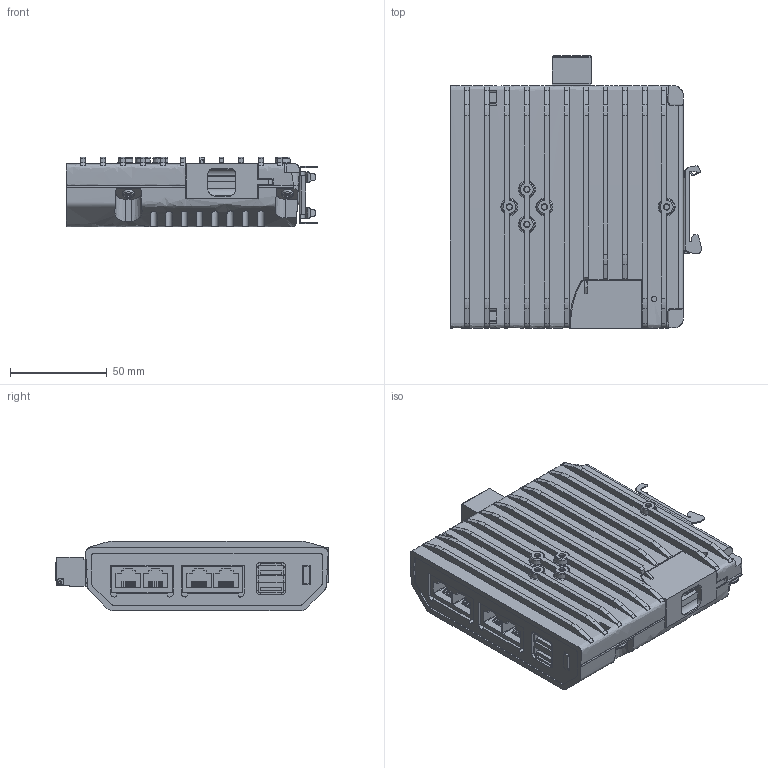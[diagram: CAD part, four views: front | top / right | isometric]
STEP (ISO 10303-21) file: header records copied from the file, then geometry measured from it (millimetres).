
FILE_DESCRIPTION(/* description */ ('STEP AP203'),/* implementation_level */ '2;1');
FILE_NAME(/* name */ 'AE3100',/* time_stamp */ '2023-06-26T11:32:47+02:00',/* author */ ('License CC BY-ND 4.0'),/* organization */ ('CADENAS'),/* preprocessor_version */ 'ST-DEVELOPER v19.3',/* originating_system */ 'PARTsolutions',/* authorisation */ ' ');
FILE_SCHEMA (('CONFIG_CONTROL_DESIGN','TECHNICAL_DATA_PACKAGING','PROCESS_PLANNING_SCHEMA','AP242_MANAGED_MODEL_BASED_3D_ENGINEERING_MIM_LF { 1 0 10303 442 3 1 4 }'));
Length unit declared in the file: millimetre
Products named in the file (4): AE3100; P_MZ_ASI_0201_P2; P_MZ_ASI_0201_P3; P_MZ_ASI_0201_P1
Assembly tree (3 placements, depth 2):
  AE3100
    P_MZ_ASI_0201_P2
    P_MZ_ASI_0201_P3
    P_MZ_ASI_0201_P1
Bounding box: 129.49 x 140.4 x 36 mm (x, y, z)
Volume: 435041.6 mm3; surface area: 80319.6 mm2
Topology: 3 solids, 3 shells, 1306 faces, 3495 edges, 2309 vertices
Faces by surface type: plane 806, cylinder 407, cone 45, torus 36, sphere 6, bspline 6
Full cylindrical faces by diameter (mm): 0.457 x1, 1.3 x4, 1.4 x4, 1.6 x8, 2.75 x8, 2.8 x3, 3 x10, 3.2 x2, 3.3 x7, 6 x6
Entity records: 49375 total; most frequent: CARTESIAN_POINT 8941, ORIENTED_EDGE 6792, DIRECTION 6649, EDGE_CURVE 3396, VERTEX_POINT 2306, LINE 2279, VECTOR 2279, AXIS2_PLACEMENT_3D 2185
